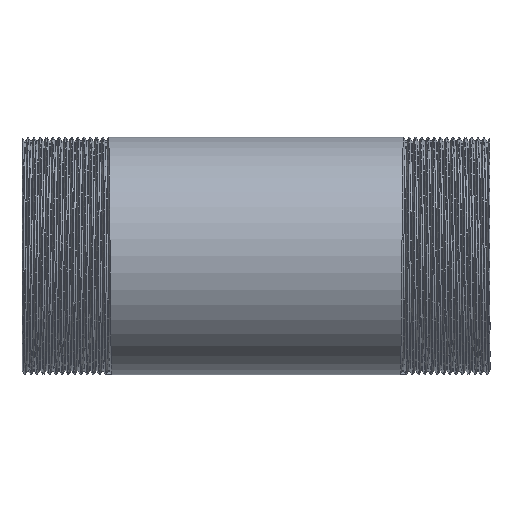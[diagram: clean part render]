
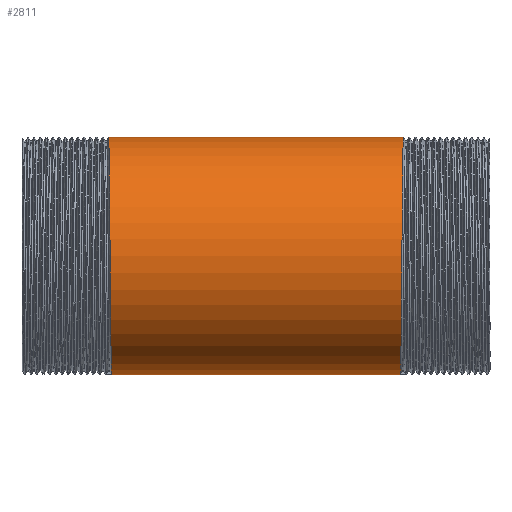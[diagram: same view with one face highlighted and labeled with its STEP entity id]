
A CAD part, front view. The second image highlights one B-rep face of the part: STEP entity #2811.
In plain terms, the highlighted cylindrical face has radius 38.05 mm (diameter 76.1 mm), a partial arc.
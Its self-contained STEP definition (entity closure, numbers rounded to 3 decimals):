
#2 = CARTESIAN_POINT ( 'NONE',  ( -46.95, -32.367, 23.516 ) ) ;
#72 = CARTESIAN_POINT ( 'NONE',  ( -47.25, 0., 38.05 ) ) ;
#281 = VERTEX_POINT ( 'NONE', #6362 ) ;
#411 = LINE ( 'NONE', #12461, #2002 ) ;
#979 = EDGE_CURVE ( 'NONE', #11477, #10577, #2413, .T. ) ;
#1164 = CARTESIAN_POINT ( 'NONE',  ( -46.75, -40.008, 0. ) ) ;
#1220 = CARTESIAN_POINT ( 'NONE',  ( 47.05, -22.365, 30.783 ) ) ;
#1568 = CARTESIAN_POINT ( 'NONE',  ( -47.25, 0., 38.05 ) ) ;
#2002 = VECTOR ( 'NONE', #11389, 1000. ) ;
#2315 = CARTESIAN_POINT ( 'NONE',  ( -46.85, -36.188, 11.758 ) ) ;
#2413 = LINE ( 'NONE', #7801, #8847 ) ;
#2510 = EDGE_CURVE ( 'NONE', #281, #4433, #411, .T. ) ;
#2716 = FACE_OUTER_BOUND ( 'NONE', #11407, .T. ) ;
#2811 = ADVANCED_FACE ( 'NONE', ( #2716 ), #12377, .T. ) ;
#3435 = CARTESIAN_POINT ( 'NONE',  ( 46.65, -36.188, -11.758 ) ) ;
#4433 = VERTEX_POINT ( 'NONE', #1568 ) ;
#4653 = CARTESIAN_POINT ( 'NONE',  ( 47.15, -12.363, 38.05 ) ) ;
#4880 = EDGE_CURVE ( 'NONE', #10577, #4433, #6512, .T. ) ;
#5529 = ORIENTED_EDGE ( 'NONE', *, *, #8923, .T. ) ;
#5535 = CARTESIAN_POINT ( 'NONE',  ( -47.15, -12.363, 38.05 ) ) ;
#6012 = DIRECTION ( 'NONE',  ( -1., 0., 0. ) ) ;
#6080 = CARTESIAN_POINT ( 'NONE',  ( -149.494, 0., 0. ) ) ;
#6362 = CARTESIAN_POINT ( 'NONE',  ( 47.25, 0., 38.05 ) ) ;
#6471 = CARTESIAN_POINT ( 'NONE',  ( -46.55, -32.367, -23.516 ) ) ;
#6512 =( BOUNDED_CURVE ( )  B_SPLINE_CURVE ( 2, ( #9907, #8764, #10772, #6471, #8695, #1164, #2315, #2, #13058, #5535, #72 ),
 .UNSPECIFIED., .F., .F. ) 
 B_SPLINE_CURVE_WITH_KNOTS ( ( 3, 2, 2, 2, 2, 3 ),
 ( 0., 0.006, 0.013, 0.019, 0.025, 0.031 ),
 .UNSPECIFIED. ) 
 CURVE ( )  GEOMETRIC_REPRESENTATION_ITEM ( )  RATIONAL_B_SPLINE_CURVE ( ( 1., 0.951, 1., 0.951, 1., 0.951, 1., 0.951, 1., 0.951, 1. ) ) 
 REPRESENTATION_ITEM ( '' )  );
#6524 = CARTESIAN_POINT ( 'NONE',  ( 46.45, -22.365, -30.783 ) ) ;
#6598 = CARTESIAN_POINT ( 'NONE',  ( 46.35, -12.363, -38.05 ) ) ;
#6669 = CARTESIAN_POINT ( 'NONE',  ( 46.95, -32.367, 23.516 ) ) ;
#6789 = DIRECTION ( 'NONE',  ( -1., 0., 0. ) ) ;
#7801 = CARTESIAN_POINT ( 'NONE',  ( -149.494, 0., -38.05 ) ) ;
#7835 = ORIENTED_EDGE ( 'NONE', *, *, #979, .F. ) ;
#7897 = CARTESIAN_POINT ( 'NONE',  ( 46.75, -40.008, 0. ) ) ;
#8695 = CARTESIAN_POINT ( 'NONE',  ( -46.65, -36.188, -11.758 ) ) ;
#8764 = CARTESIAN_POINT ( 'NONE',  ( -46.35, -12.363, -38.05 ) ) ;
#8847 = VECTOR ( 'NONE', #6789, 1000. ) ;
#8923 = EDGE_CURVE ( 'NONE', #11477, #281, #12293, .T. ) ;
#9153 = DIRECTION ( 'NONE',  ( 0., 0., 1. ) ) ;
#9245 = CARTESIAN_POINT ( 'NONE',  ( -46.25, 0., -38.05 ) ) ;
#9446 = CARTESIAN_POINT ( 'NONE',  ( 46.25, 0., -38.05 ) ) ;
#9907 = CARTESIAN_POINT ( 'NONE',  ( -46.25, 0., -38.05 ) ) ;
#9959 = CARTESIAN_POINT ( 'NONE',  ( 46.25, 0., -38.05 ) ) ;
#10577 = VERTEX_POINT ( 'NONE', #9245 ) ;
#10772 = CARTESIAN_POINT ( 'NONE',  ( -46.45, -22.365, -30.783 ) ) ;
#10892 = CARTESIAN_POINT ( 'NONE',  ( 47.25, 0., 38.05 ) ) ;
#10959 = CARTESIAN_POINT ( 'NONE',  ( 46.55, -32.367, -23.516 ) ) ;
#11389 = DIRECTION ( 'NONE',  ( -1., 0., 0. ) ) ;
#11407 = EDGE_LOOP ( 'NONE', ( #7835, #5529, #12322, #14115 ) ) ;
#11477 = VERTEX_POINT ( 'NONE', #9446 ) ;
#12109 = CARTESIAN_POINT ( 'NONE',  ( 46.85, -36.188, 11.758 ) ) ;
#12293 =( BOUNDED_CURVE ( )  B_SPLINE_CURVE ( 2, ( #9959, #6598, #6524, #10959, #3435, #7897, #12109, #6669, #1220, #4653, #10892 ),
 .UNSPECIFIED., .F., .T. ) 
 B_SPLINE_CURVE_WITH_KNOTS ( ( 3, 2, 2, 2, 2, 3 ),
 ( 0., 0.006, 0.013, 0.019, 0.025, 0.031 ),
 .UNSPECIFIED. ) 
 CURVE ( )  GEOMETRIC_REPRESENTATION_ITEM ( )  RATIONAL_B_SPLINE_CURVE ( ( 1., 0.951, 1., 0.951, 1., 0.951, 1., 0.951, 1., 0.951, 1. ) ) 
 REPRESENTATION_ITEM ( '' )  );
#12322 = ORIENTED_EDGE ( 'NONE', *, *, #2510, .T. ) ;
#12377 = CYLINDRICAL_SURFACE ( 'NONE', #12978, 38.05 ) ;
#12461 = CARTESIAN_POINT ( 'NONE',  ( -149.494, 0., 38.05 ) ) ;
#12978 = AXIS2_PLACEMENT_3D ( 'NONE', #6080, #6012, #9153 ) ;
#13058 = CARTESIAN_POINT ( 'NONE',  ( -47.05, -22.365, 30.783 ) ) ;
#14115 = ORIENTED_EDGE ( 'NONE', *, *, #4880, .F. ) ;
